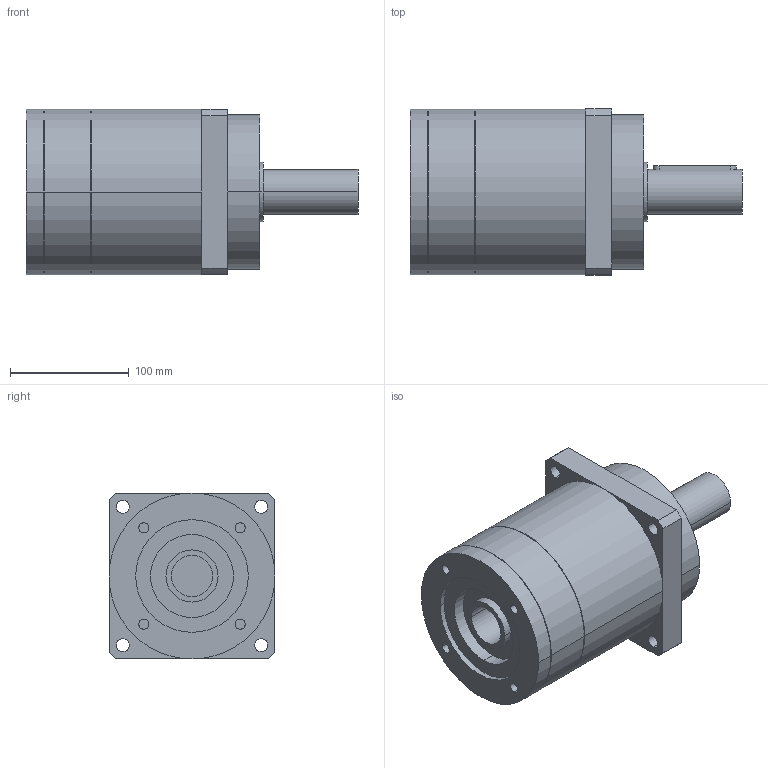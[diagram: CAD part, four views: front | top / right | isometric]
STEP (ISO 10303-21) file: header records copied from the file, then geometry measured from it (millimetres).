
FILE_DESCRIPTION(('CoCreate Modeling STEP Export'),'2;1');
FILE_NAME('GPR150_ig-3-4-5-7_38_B5_35_P03.stp','2014-08-19T16:43:10',(''),(''),'CoCreate Modeling STEP processor for AP214 (Solid Model)','CoCreate Modeling 16.00C 25-Feb-2009 (C) Parametric Technology GmbH','');
FILE_SCHEMA(('AUTOMOTIVE_DESIGN { 1 0 10303 214 1 1 1 1 }'));
Length unit declared in the file: millimetre
Products named in the file (2): GPR150_ig-3-4-5-7_38_B5_35_P03
Assembly tree (1 placements, depth 2):
  GPR150_ig-3-4-5-7_38_B5_35_P03
    GPR150_ig-3-4-5-7_38_B5_35_P03
Bounding box: 280 x 140 x 140 mm (x, y, z)
Volume: 3015046.8 mm3; surface area: 156899.9 mm2
Topology: 1 solids, 1 shells, 88 faces, 224 edges, 154 vertices
Faces by surface type: cylinder 52, plane 30, cone 6
Entity records: 2327 total; most frequent: ORIENTED_EDGE 444, CARTESIAN_POINT 426, DIRECTION 320, EDGE_CURVE 222, VERTEX_POINT 154, AXIS2_PLACEMENT_3D 120, EDGE_LOOP 114, FACE_OUTER_BOUND 88
